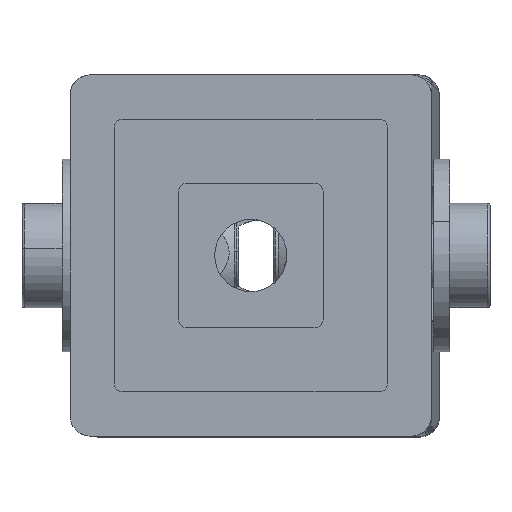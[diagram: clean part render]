
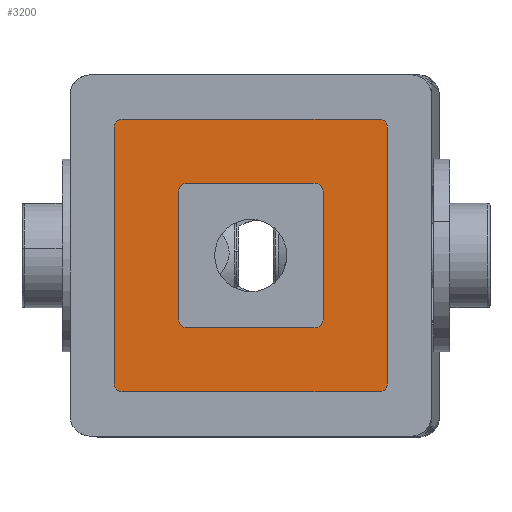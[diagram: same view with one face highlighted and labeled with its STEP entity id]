
A CAD part, front view. The second image highlights one B-rep face of the part: STEP entity #3200.
In plain terms, the highlighted planar face has unit normal (0, -1, 0).
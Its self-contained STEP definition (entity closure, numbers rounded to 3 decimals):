
#7 = CARTESIAN_POINT ( 'NONE',  ( -17., 4., 6.5 ) ) ;
#10 = DIRECTION ( 'NONE',  ( -1., 0., 0. ) ) ;
#54 = ORIENTED_EDGE ( 'NONE', *, *, #1436, .T. ) ;
#133 = DIRECTION ( 'NONE',  ( 0., 0., -1. ) ) ;
#144 = VERTEX_POINT ( 'NONE', #6035 ) ;
#152 = EDGE_CURVE ( 'NONE', #3639, #7276, #793, .T. ) ;
#211 = AXIS2_PLACEMENT_3D ( 'NONE', #4771, #5010, #7767 ) ;
#321 = CIRCLE ( 'NONE', #3488, 1. ) ;
#562 = DIRECTION ( 'NONE',  ( 0., 0., 1. ) ) ;
#567 = CIRCLE ( 'NONE', #4808, 1. ) ;
#628 = EDGE_CURVE ( 'NONE', #6848, #7648, #4524, .T. ) ;
#630 = CARTESIAN_POINT ( 'NONE',  ( 17., 4., 39.5 ) ) ;
#766 = CARTESIAN_POINT ( 'NONE',  ( 17., 4., 38.5 ) ) ;
#793 = CIRCLE ( 'NONE', #6238, 1. ) ;
#831 = VERTEX_POINT ( 'NONE', #4472 ) ;
#920 = ORIENTED_EDGE ( 'NONE', *, *, #1985, .T. ) ;
#931 = ORIENTED_EDGE ( 'NONE', *, *, #628, .T. ) ;
#1117 = ORIENTED_EDGE ( 'NONE', *, *, #5847, .T. ) ;
#1199 = ORIENTED_EDGE ( 'NONE', *, *, #5470, .F. ) ;
#1211 = VECTOR ( 'NONE', #10, 1000. ) ;
#1436 = EDGE_CURVE ( 'NONE', #144, #5810, #1921, .T. ) ;
#1481 = EDGE_CURVE ( 'NONE', #6197, #6848, #4632, .T. ) ;
#1631 = VERTEX_POINT ( 'NONE', #6139 ) ;
#1676 = CARTESIAN_POINT ( 'NONE',  ( -9., 4., 13.5 ) ) ;
#1695 = VECTOR ( 'NONE', #6073, 1000. ) ;
#1756 = ORIENTED_EDGE ( 'NONE', *, *, #7690, .F. ) ;
#1783 = AXIS2_PLACEMENT_3D ( 'NONE', #5256, #1922, #3292 ) ;
#1913 = LINE ( 'NONE', #8454, #7741 ) ;
#1921 = LINE ( 'NONE', #6420, #8254 ) ;
#1922 = DIRECTION ( 'NONE',  ( 0., -1., 0. ) ) ;
#1985 = EDGE_CURVE ( 'NONE', #4151, #144, #6146, .T. ) ;
#2018 = LINE ( 'NONE', #2394, #5071 ) ;
#2029 = VERTEX_POINT ( 'NONE', #2078 ) ;
#2078 = CARTESIAN_POINT ( 'NONE',  ( -9., 4., 14.5 ) ) ;
#2080 = ORIENTED_EDGE ( 'NONE', *, *, #152, .T. ) ;
#2162 = FACE_BOUND ( 'NONE', #6058, .T. ) ;
#2182 = ORIENTED_EDGE ( 'NONE', *, *, #6032, .F. ) ;
#2366 = DIRECTION ( 'NONE',  ( -1., 0., 0. ) ) ;
#2381 = EDGE_CURVE ( 'NONE', #5810, #5505, #321, .T. ) ;
#2394 = CARTESIAN_POINT ( 'NONE',  ( 9., 4., 31.5 ) ) ;
#2402 = VECTOR ( 'NONE', #4387, 1000. ) ;
#2456 = ORIENTED_EDGE ( 'NONE', *, *, #4692, .T. ) ;
#2547 = CARTESIAN_POINT ( 'NONE',  ( -17., 4., 38.5 ) ) ;
#2874 = CARTESIAN_POINT ( 'NONE',  ( -8., 4., 31.5 ) ) ;
#2938 = AXIS2_PLACEMENT_3D ( 'NONE', #4505, #7097, #5826 ) ;
#2947 = VERTEX_POINT ( 'NONE', #4980 ) ;
#3140 = VERTEX_POINT ( 'NONE', #6363 ) ;
#3166 = DIRECTION ( 'NONE',  ( 1., 0., 0. ) ) ;
#3200 = ADVANCED_FACE ( 'NONE', ( #2162, #8510 ), #6352, .T. ) ;
#3205 = DIRECTION ( 'NONE',  ( 0., 0., -1. ) ) ;
#3292 = DIRECTION ( 'NONE',  ( 0., 0., -1. ) ) ;
#3488 = AXIS2_PLACEMENT_3D ( 'NONE', #5837, #6471, #3205 ) ;
#3552 = AXIS2_PLACEMENT_3D ( 'NONE', #4866, #5546, #133 ) ;
#3605 = CARTESIAN_POINT ( 'NONE',  ( 16., 4., 5.5 ) ) ;
#3639 = VERTEX_POINT ( 'NONE', #7003 ) ;
#3693 = CARTESIAN_POINT ( 'NONE',  ( -16., 4., 5.5 ) ) ;
#3796 = VECTOR ( 'NONE', #3972, 1000. ) ;
#3801 = CIRCLE ( 'NONE', #5876, 1. ) ;
#3972 = DIRECTION ( 'NONE',  ( 0., 0., -1. ) ) ;
#4053 = DIRECTION ( 'NONE',  ( 0., 1., 0. ) ) ;
#4063 = ORIENTED_EDGE ( 'NONE', *, *, #5314, .T. ) ;
#4151 = VERTEX_POINT ( 'NONE', #3605 ) ;
#4154 = AXIS2_PLACEMENT_3D ( 'NONE', #7451, #8034, #5392 ) ;
#4225 = DIRECTION ( 'NONE',  ( 0., 0., -1. ) ) ;
#4226 = ORIENTED_EDGE ( 'NONE', *, *, #1481, .T. ) ;
#4308 = EDGE_CURVE ( 'NONE', #831, #5282, #5514, .T. ) ;
#4387 = DIRECTION ( 'NONE',  ( 0., 0., -1. ) ) ;
#4434 = CARTESIAN_POINT ( 'NONE',  ( 16., 4., 39.5 ) ) ;
#4472 = CARTESIAN_POINT ( 'NONE',  ( -9., 4., 30.5 ) ) ;
#4484 = DIRECTION ( 'NONE',  ( 1., 0., 0. ) ) ;
#4505 = CARTESIAN_POINT ( 'NONE',  ( -8., 4., 14.5 ) ) ;
#4519 = VECTOR ( 'NONE', #4484, 1000. ) ;
#4524 = CIRCLE ( 'NONE', #1783, 1. ) ;
#4632 = LINE ( 'NONE', #7940, #3796 ) ;
#4692 = EDGE_CURVE ( 'NONE', #5505, #2947, #6940, .T. ) ;
#4708 = DIRECTION ( 'NONE',  ( 0., 0., -1. ) ) ;
#4771 = CARTESIAN_POINT ( 'NONE',  ( -17., 4., 39.5 ) ) ;
#4777 = VERTEX_POINT ( 'NONE', #8611 ) ;
#4808 = AXIS2_PLACEMENT_3D ( 'NONE', #8141, #8174, #4225 ) ;
#4866 = CARTESIAN_POINT ( 'NONE',  ( -8., 4., 30.5 ) ) ;
#4945 = DIRECTION ( 'NONE',  ( 0., 0., -1. ) ) ;
#4980 = CARTESIAN_POINT ( 'NONE',  ( -16., 4., 39.5 ) ) ;
#5010 = DIRECTION ( 'NONE',  ( 0., -1., 0. ) ) ;
#5071 = VECTOR ( 'NONE', #2366, 1000. ) ;
#5106 = CARTESIAN_POINT ( 'NONE',  ( 8., 4., 13.5 ) ) ;
#5256 = CARTESIAN_POINT ( 'NONE',  ( -16., 4., 6.5 ) ) ;
#5267 = LINE ( 'NONE', #6492, #4519 ) ;
#5282 = VERTEX_POINT ( 'NONE', #2874 ) ;
#5314 = EDGE_CURVE ( 'NONE', #1631, #3140, #3801, .T. ) ;
#5392 = DIRECTION ( 'NONE',  ( 0., 0., -1. ) ) ;
#5438 = EDGE_LOOP ( 'NONE', ( #8020, #920, #54, #7151, #2456, #1117, #4226, #931 ) ) ;
#5464 = CIRCLE ( 'NONE', #2938, 1. ) ;
#5470 = EDGE_CURVE ( 'NONE', #1631, #5282, #2018, .T. ) ;
#5505 = VERTEX_POINT ( 'NONE', #4434 ) ;
#5514 = CIRCLE ( 'NONE', #3552, 1. ) ;
#5546 = DIRECTION ( 'NONE',  ( 0., 1., 0. ) ) ;
#5596 = CARTESIAN_POINT ( 'NONE',  ( 8., 4., 14.5 ) ) ;
#5810 = VERTEX_POINT ( 'NONE', #766 ) ;
#5826 = DIRECTION ( 'NONE',  ( 0., 0., -1. ) ) ;
#5837 = CARTESIAN_POINT ( 'NONE',  ( 16., 4., 38.5 ) ) ;
#5847 = EDGE_CURVE ( 'NONE', #2947, #6197, #567, .T. ) ;
#5876 = AXIS2_PLACEMENT_3D ( 'NONE', #7248, #4053, #4708 ) ;
#6000 = EDGE_CURVE ( 'NONE', #7648, #4151, #5267, .T. ) ;
#6032 = EDGE_CURVE ( 'NONE', #4777, #7276, #1913, .T. ) ;
#6035 = CARTESIAN_POINT ( 'NONE',  ( 17., 4., 6.5 ) ) ;
#6058 = EDGE_LOOP ( 'NONE', ( #1199, #4063, #6203, #2080, #2182, #6088, #1756, #6340 ) ) ;
#6073 = DIRECTION ( 'NONE',  ( 0., 0., 1. ) ) ;
#6088 = ORIENTED_EDGE ( 'NONE', *, *, #6776, .T. ) ;
#6139 = CARTESIAN_POINT ( 'NONE',  ( 8., 4., 31.5 ) ) ;
#6146 = CIRCLE ( 'NONE', #4154, 1. ) ;
#6197 = VERTEX_POINT ( 'NONE', #2547 ) ;
#6203 = ORIENTED_EDGE ( 'NONE', *, *, #6381, .F. ) ;
#6238 = AXIS2_PLACEMENT_3D ( 'NONE', #5596, #7564, #4945 ) ;
#6340 = ORIENTED_EDGE ( 'NONE', *, *, #4308, .T. ) ;
#6352 = PLANE ( 'NONE',  #211 ) ;
#6363 = CARTESIAN_POINT ( 'NONE',  ( 9., 4., 30.5 ) ) ;
#6381 = EDGE_CURVE ( 'NONE', #3639, #3140, #7013, .T. ) ;
#6420 = CARTESIAN_POINT ( 'NONE',  ( 17., 4., 5.5 ) ) ;
#6471 = DIRECTION ( 'NONE',  ( 0., -1., 0. ) ) ;
#6492 = CARTESIAN_POINT ( 'NONE',  ( 17., 4., 5.5 ) ) ;
#6775 = CARTESIAN_POINT ( 'NONE',  ( 9., 4., 13.5 ) ) ;
#6776 = EDGE_CURVE ( 'NONE', #4777, #2029, #5464, .T. ) ;
#6848 = VERTEX_POINT ( 'NONE', #7 ) ;
#6940 = LINE ( 'NONE', #630, #1211 ) ;
#7001 = LINE ( 'NONE', #1676, #2402 ) ;
#7003 = CARTESIAN_POINT ( 'NONE',  ( 9., 4., 14.5 ) ) ;
#7013 = LINE ( 'NONE', #6775, #1695 ) ;
#7097 = DIRECTION ( 'NONE',  ( 0., 1., 0. ) ) ;
#7151 = ORIENTED_EDGE ( 'NONE', *, *, #2381, .T. ) ;
#7248 = CARTESIAN_POINT ( 'NONE',  ( 8., 4., 30.5 ) ) ;
#7276 = VERTEX_POINT ( 'NONE', #5106 ) ;
#7451 = CARTESIAN_POINT ( 'NONE',  ( 16., 4., 6.5 ) ) ;
#7564 = DIRECTION ( 'NONE',  ( 0., 1., 0. ) ) ;
#7648 = VERTEX_POINT ( 'NONE', #3693 ) ;
#7690 = EDGE_CURVE ( 'NONE', #831, #2029, #7001, .T. ) ;
#7741 = VECTOR ( 'NONE', #3166, 1000. ) ;
#7767 = DIRECTION ( 'NONE',  ( 0., 0., -1. ) ) ;
#7940 = CARTESIAN_POINT ( 'NONE',  ( -17., 4., 5.5 ) ) ;
#8020 = ORIENTED_EDGE ( 'NONE', *, *, #6000, .T. ) ;
#8034 = DIRECTION ( 'NONE',  ( 0., -1., 0. ) ) ;
#8141 = CARTESIAN_POINT ( 'NONE',  ( -16., 4., 38.5 ) ) ;
#8174 = DIRECTION ( 'NONE',  ( 0., -1., 0. ) ) ;
#8254 = VECTOR ( 'NONE', #562, 1000. ) ;
#8454 = CARTESIAN_POINT ( 'NONE',  ( 9., 4., 13.5 ) ) ;
#8510 = FACE_OUTER_BOUND ( 'NONE', #5438, .T. ) ;
#8611 = CARTESIAN_POINT ( 'NONE',  ( -8., 4., 13.5 ) ) ;
